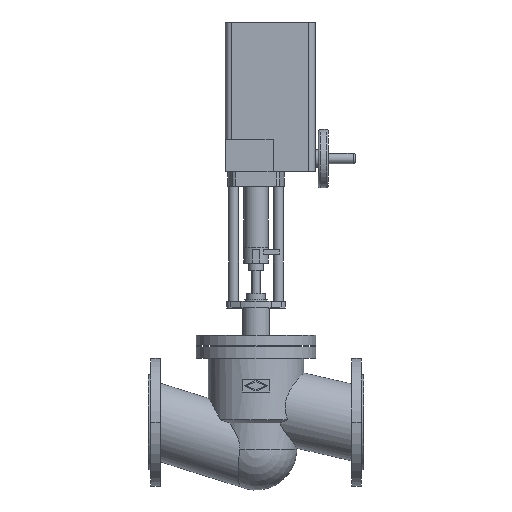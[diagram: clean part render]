
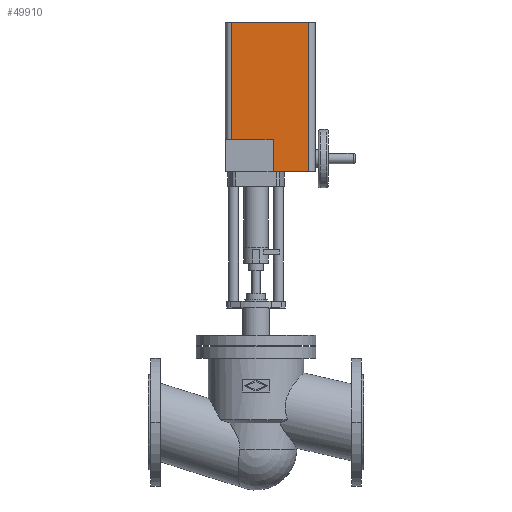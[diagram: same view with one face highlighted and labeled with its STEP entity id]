
A CAD part, top view. The second image highlights one B-rep face of the part: STEP entity #49910.
In plain terms, the highlighted planar face has unit normal (0, 0, 1).
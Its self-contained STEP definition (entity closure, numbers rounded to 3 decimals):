
#37630=CARTESIAN_POINT('',(185.6,892.5,114.));
#37640=VERTEX_POINT('',#37630);
#37670=CARTESIAN_POINT('',(185.6,559.,114.));
#37680=DIRECTION('',(0.,1.,0.));
#37690=VECTOR('',#37680,1.);
#37700=LINE('',#37670,#37690);
#37710=CARTESIAN_POINT('',(185.6,630.5,114.));
#37720=VERTEX_POINT('',#37710);
#37730=EDGE_CURVE('',#37720,#37640,#37700,.T.);
#44560=CARTESIAN_POINT('',(278.1,559.,114.));
#44570=VERTEX_POINT('',#44560);
#44620=CARTESIAN_POINT('',(185.6,559.,114.));
#44630=DIRECTION('',(1.,0.,0.));
#44640=VECTOR('',#44630,1.);
#44650=LINE('',#44620,#44640);
#44660=CARTESIAN_POINT('',(357.6,559.,114.));
#44670=VERTEX_POINT('',#44660);
#44680=EDGE_CURVE('',#44570,#44670,#44650,.T.);
#45420=CARTESIAN_POINT('',(278.1,630.5,114.));
#45430=VERTEX_POINT('',#45420);
#45460=CARTESIAN_POINT('',(278.1,559.,114.));
#45470=DIRECTION('',(0.,-1.,0.));
#45480=VECTOR('',#45470,1.);
#45490=LINE('',#45460,#45480);
#45500=EDGE_CURVE('',#45430,#44570,#45490,.T.);
#49000=CARTESIAN_POINT('',(357.6,559.,114.));
#49010=DIRECTION('',(0.,-1.,0.));
#49020=VECTOR('',#49010,1.);
#49030=LINE('',#49000,#49020);
#49040=CARTESIAN_POINT('',(357.6,892.5,114.));
#49050=VERTEX_POINT('',#49040);
#49060=EDGE_CURVE('',#49050,#44670,#49030,.T.);
#49450=CARTESIAN_POINT('',(185.6,892.5,114.));
#49460=DIRECTION('',(-1.,0.,0.));
#49470=VECTOR('',#49460,1.);
#49480=LINE('',#49450,#49470);
#49490=EDGE_CURVE('',#49050,#37640,#49480,.T.);
#49730=CARTESIAN_POINT('',(357.6,559.,114.));
#49740=DIRECTION('',(0.,0.,1.));
#49750=DIRECTION('',(1.,0.,0.));
#49760=AXIS2_PLACEMENT_3D('',#49730,#49740,#49750);
#49770=PLANE('',#49760);
#49780=ORIENTED_EDGE('',*,*,#37730,.F.);
#49790=ORIENTED_EDGE('',*,*,#49490,.T.);
#49800=ORIENTED_EDGE('',*,*,#49060,.F.);
#49810=ORIENTED_EDGE('',*,*,#44680,.T.);
#49820=ORIENTED_EDGE('',*,*,#45500,.T.);
#49830=CARTESIAN_POINT('',(298.8,630.5,114.));
#49840=DIRECTION('',(1.,0.,0.));
#49850=VECTOR('',#49840,1.);
#49860=LINE('',#49830,#49850);
#49870=EDGE_CURVE('',#37720,#45430,#49860,.T.);
#49880=ORIENTED_EDGE('',*,*,#49870,.T.);
#49890=EDGE_LOOP('',(#49880,#49820,#49810,#49800,#49790,#49780));
#49900=FACE_OUTER_BOUND('',#49890,.T.);
#49910=ADVANCED_FACE('',(#49900),#49770,.T.);
